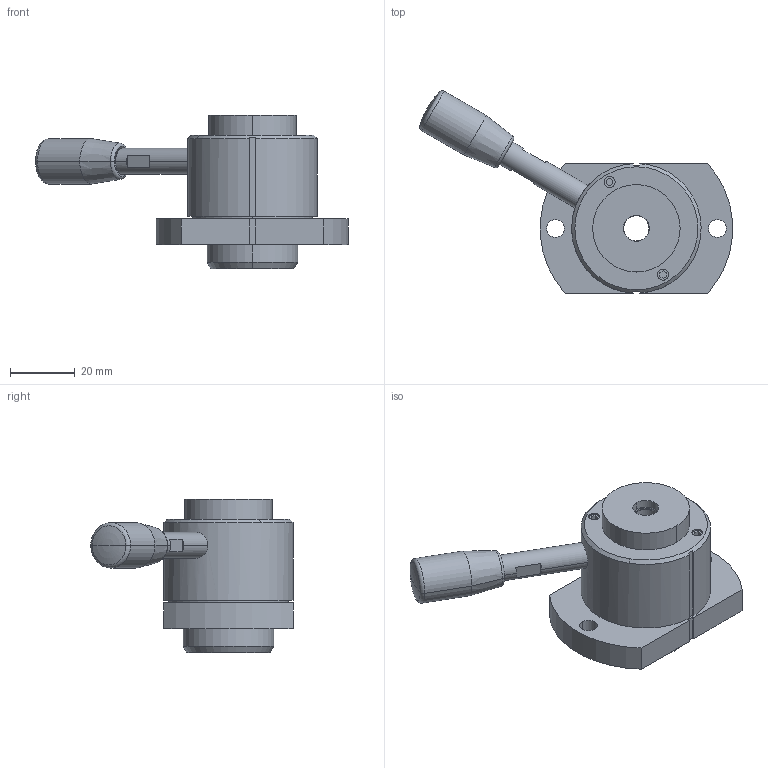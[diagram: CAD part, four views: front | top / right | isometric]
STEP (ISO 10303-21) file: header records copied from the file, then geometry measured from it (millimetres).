
FILE_DESCRIPTION (( 'STEP AP203' ), '1' );
FILE_NAME ('QLRCW40L-050.step', '2025-01-28T02:58:15', ( '' ), ( '' ), 'SwSTEP 2.0', 'SolidWorks 2023', '' );
FILE_SCHEMA (( 'CONFIG_CONTROL_DESIGN' ));
Length unit declared in the file: millimetre
Products named in the file (3): QLRCW40L-050; QLRCW40L-050_02; QLRCW40L-050_01
Assembly tree (2 placements, depth 2):
  QLRCW40L-050
    QLRCW40L-050_01
    QLRCW40L-050_02
Bounding box: 96.6 x 62.5 x 47.5 mm (x, y, z)
Volume: 53355.5 mm3; surface area: 21761.9 mm2
Topology: 2 solids, 2 shells, 135 faces, 329 edges, 214 vertices
Faces by surface type: cylinder 59, plane 58, torus 10, cone 8
Entity records: 4509 total; most frequent: CARTESIAN_POINT 925, DIRECTION 728, ORIENTED_EDGE 654, EDGE_CURVE 327, AXIS2_PLACEMENT_3D 283, VERTEX_POINT 214, VECTOR 162, LINE 162
